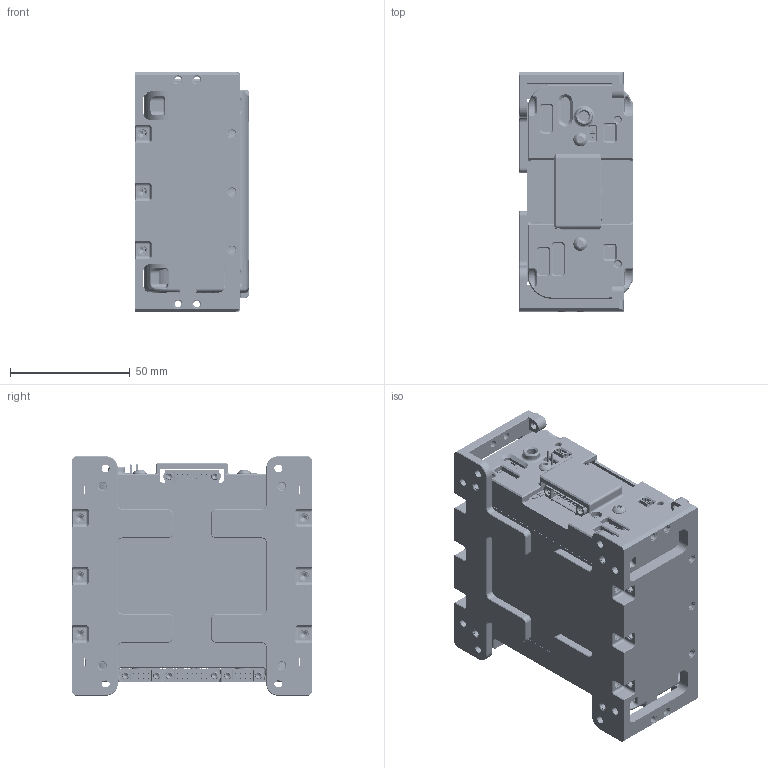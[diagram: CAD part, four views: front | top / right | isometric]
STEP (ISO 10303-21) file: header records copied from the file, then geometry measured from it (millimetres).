
FILE_DESCRIPTION (( 'STEP AP214' ), '1' );
FILE_NAME ('710-01552-F Battery Module 2 - BSM Rev A.STEP', '2019-02-05T20:27:02', ( '' ), ( '' ), 'SwSTEP 2.0', 'SolidWorks 2014', '' );
FILE_SCHEMA (( 'AUTOMOTIVE_DESIGN' ));
Length unit declared in the file: inch
Products named in the file (2): 710-01552-F Battery Module 2 - BSM Rev A
Bounding box: 47.63 x 99.99 x 100 mm (x, y, z)
Volume: 358946.9 mm3; surface area: 73715.8 mm2
Topology: 1 solids, 7 shells, 10013 faces, 28547 edges, 18409 vertices
Faces by surface type: plane 4302, cylinder 2728, cone 1110, torus 1073, bspline 779, sphere 21
Entity records: 457857 total; most frequent: CARTESIAN_POINT 186356, ORIENTED_EDGE 56952, DIRECTION 50536, EDGE_CURVE 28476, VERTEX_POINT 18409, AXIS2_PLACEMENT_3D 18270, LINE 13996, VECTOR 13996
